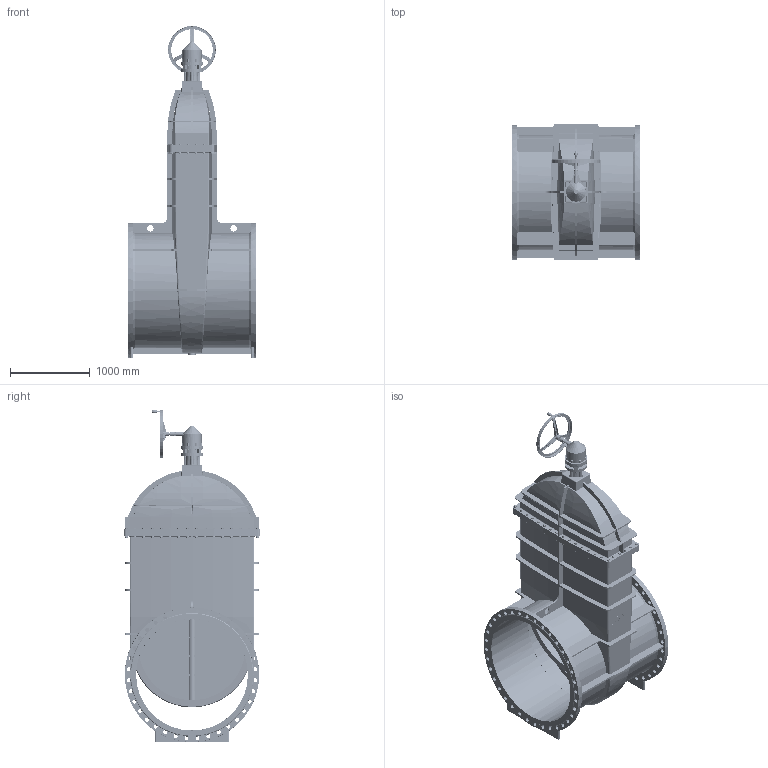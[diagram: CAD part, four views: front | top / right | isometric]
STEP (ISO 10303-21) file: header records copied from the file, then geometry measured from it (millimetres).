
FILE_DESCRIPTION(('STEP AP242'), '1');
FILE_NAME('青溻桄赅', '', ('UNSPECIFIED'), ('UNSPECIFIED'), 'C3D Converter', 'C3D Toolkit', '');
FILE_SCHEMA(('AP242_MANAGED_MODEL_BASED_3D_ENGINEERING_MIM_LF { 1 0 10303 442 1 1 4 }'));
Length unit declared in the file: millimetre
Assembly tree (267 placements, depth 2):
  (unnamed)
    (unnamed)
    (unnamed)
    (unnamed)
    (unnamed)  x2
    (unnamed)
    (unnamed)
    (unnamed)
    (unnamed)
    (unnamed)
    (unnamed)  x40
    (unnamed)  x80
    (unnamed)  x80
    (unnamed)  x40
    (unnamed)  x4
    (unnamed)  x8
    (unnamed)  x4
    (unnamed)
Bounding box: 1600 x 1706 x 4156.5 mm (x, y, z)
Volume: 292802778.3 mm3; surface area: 50096424.7 mm2
Topology: 272 solids, 273 shells, 4178 faces, 10469 edges, 6865 vertices
Faces by surface type: plane 2354, cylinder 959, cone 540, extrusion 143, torus 103, bspline 79
Full cylindrical faces by diameter (mm): 4.917 x1, 5 x4, 6 x23, 8 x24, 10 x4, 12 x8, 13 x8, 14 x4, 16 x12, 17.294 x40, 18 x4, 20 x45, 22 x200, 24 x4, 30 x40, 34 x80, 40 x1, 50 x72, 56 x9, 60 x3, 80 x2, 92 x1, 96 x5, 101.617 x1, 205.111 x2, 245.384 x1, 285.657 x3, 520 x1, 530 x1, 590 x1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
Entity records: 90828 total; most frequent: CARTESIAN_POINT 35153, DIRECTION 9871, ORIENTED_EDGE 8935, EDGE_CURVE 4908, AXIS2_PLACEMENT_3D 3895, VERTEX_POINT 3755, EDGE_LOOP 2496, CIRCLE 2251
